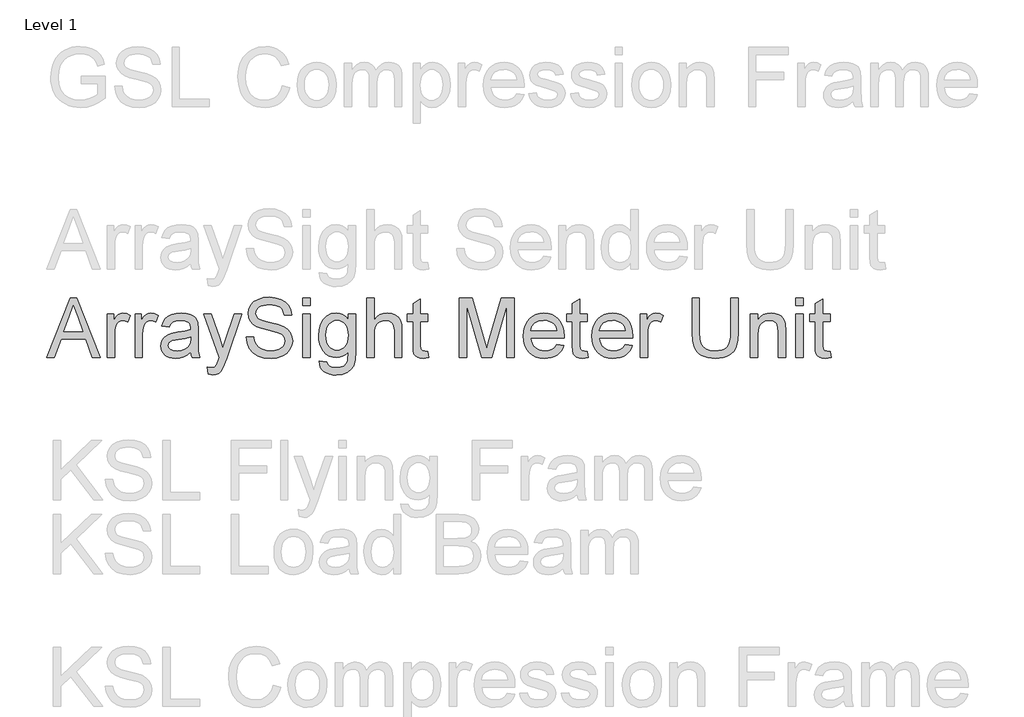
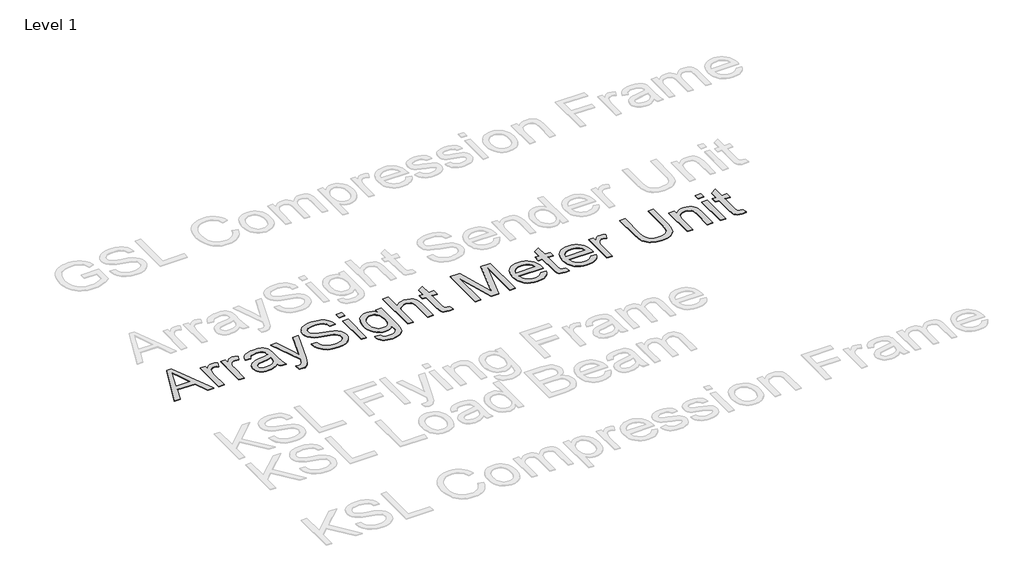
# One storey, part 11 of 52: 1 proxy.
"""IFC4 building model written with IfcOpenShell, lengths in millimetres."""

from ifc_helpers import new_model, si_unit, origin, origin_with_axes, place, context, project, spatial, polyline, outline, extrude, element, save

model = new_model("IFC4")

# Units and contexts
model_context = context("Model", 3, world=origin())
ifc_project = project(units=[si_unit("LENGTHUNIT", "METRE", prefix="MILLI")], contexts=[model_context])

# Site, building, storey
site = spatial("IfcSite", under=ifc_project)
building = spatial("IfcBuilding", under=site)
storey = spatial("IfcBuildingStorey", under=building, Name="Level 1", Elevation=0.0)

# Proxy
placement = place(None, origin())
element("IfcBuildingElementProxy", 1, Name="400mm Arial", ObjectType="400mm Arial", at=placement, inside=storey, context=model_context, shape_type="SweptSolid", body=[
    extrude(outline(polyline([(-18997.8660955, -54256.6859046), (-18837.4695456, -53854.860664), (-18794.6971323, -53854.860664), (-18634.3005824, -54256.6859046), (-18687.3736916, -54256.6859046), (-18733.3834665, -54131.1155169), (-18898.8813134, -54131.1155169), (-18944.7929864, -54256.6859046), (-18997.8660955, -54256.6859046)]), holes=[polyline([(-18880.4381627, -54080.8873618), (-18751.7285153, -54080.8873618), (-18787.9281036, -53982.0987834), (-18816.083339, -53905.088819), (-18841.0993147, -53973.4658192), (-18880.4381627, -54080.8873618)])]), origin_with_axes(), (0.0, 0.0, 1.0), 5.0),
    extrude(outline(polyline([(-18586.9173815, -54256.6859046), (-18586.9173815, -53961.5954935), (-18542.9677458, -53961.5954935), (-18542.9677458, -54005.2508236), (-18526.731887, -53979.9405423), (-18511.7713526, -53965.0290588), (-18496.7617672, -53957.7449953), (-18480.3787557, -53955.3169741), (-18455.36278, -53959.1919978), (-18429.9543969, -53970.8170688), (-18446.7298158, -54015.845825), (-18464.3881516, -54008.1203031), (-18482.0464874, -54005.5451292), (-18497.04381, -54008.0222013), (-18510.4469774, -54015.4534176), (-18521.2749708, -54027.2746924), (-18528.5467716, -54042.9219399), (-18534.6536127, -54070.9790734), (-18536.6892264, -54101.5868554), (-18536.6892264, -54256.6859046), (-18586.9173815, -54256.6859046)])), origin_with_axes(), (0.0, 0.0, 1.0), 5.0),
    extrude(outline(polyline([(-18398.5617999, -54256.6859046), (-18398.5617999, -53961.5954935), (-18354.6121642, -53961.5954935), (-18354.6121642, -54005.2508236), (-18338.3763055, -53979.9405423), (-18323.415771, -53965.0290588), (-18308.4061856, -53957.7449953), (-18292.0231741, -53955.3169741), (-18267.0071985, -53959.1919978), (-18241.5988153, -53970.8170688), (-18258.3742343, -54015.845825), (-18276.0325701, -54008.1203031), (-18293.6909058, -54005.5451292), (-18308.6882285, -54008.0222013), (-18322.0913959, -54015.4534176), (-18332.9193893, -54027.2746924), (-18340.19119, -54042.9219399), (-18346.2980311, -54070.9790734), (-18348.3336449, -54101.5868554), (-18348.3336449, -54256.6859046), (-18398.5617999, -54256.6859046)])), origin_with_axes(), (0.0, 0.0, 1.0), 5.0),
    extrude(outline(polyline([(-18021.8506369, -54219.0147883), (-18045.8488057, -54239.5916545), (-18070.558213, -54253.0561355), (-18096.5429446, -54260.4873518), (-18124.3670862, -54262.9644239), (-18146.7312458, -54261.4745019), (-18166.3424218, -54257.0047356), (-18183.2006143, -54249.5551252), (-18197.3058231, -54239.1256707), (-18208.4434505, -54226.3785595), (-18216.3988987, -54211.9759794), (-18221.1721675, -54195.9179303), (-18222.7632572, -54178.2044123), (-18220.3597615, -54157.3822913), (-18213.1492744, -54138.4731568), (-18202.0269754, -54122.286349), (-18187.888044, -54109.6312084), (-18171.2720406, -54100.0662765), (-18152.7185253, -54093.150095), (-18109.2593989, -54085.5962513), (-18057.9030724, -54077.6500002), (-18022.1449425, -54068.330323), (-18021.8506369, -54057.1467104), (-18025.3087276, -54034.7304341), (-18035.6829999, -54020.0642053), (-18058.8840911, -54009.1748982), (-18091.2086557, -54005.5451292), (-18121.1297246, -54007.9608876), (-18142.025422, -54015.2081629), (-18156.2747179, -54028.6113303), (-18166.2565827, -54049.4947649), (-18216.4847378, -54043.2162455), (-18207.7659345, -54015.7477232), (-18194.7551746, -53994.1653128), (-18176.2384475, -53977.6596739), (-18151.0017426, -53965.4214662), (-18120.1364432, -53957.8430971), (-18084.7339326, -53955.3169741), (-18050.7784244, -53957.5487915), (-18023.8617251, -53964.2442439), (-18003.5669017, -53974.3119478), (-17989.4770213, -53986.6605201), (-17980.1328186, -54001.9276229), (-17974.0750284, -54020.7509183), (-17971.6224818, -54064.700554), (-17971.6224818, -54127.1914423), (-17969.0718333, -54214.4530515), (-17959.065443, -54256.6859046), (-18009.2935981, -54256.6859046), (-18017.3379511, -54239.2237725), (-18021.8506369, -54219.0147883)]), holes=[polyline([(-18021.8506369, -54118.5584781), (-18055.5976786, -54126.9216621), (-18102.8827777, -54133.960471), (-18146.0966494, -54142.1029258), (-18157.3415757, -54147.6702067), (-18165.6679715, -54155.3466776), (-18170.8183194, -54164.5437275), (-18172.5351021, -54174.6727451), (-18168.7949685, -54189.6087541), (-18157.5745676, -54201.8469618), (-18139.1191542, -54210.0139421), (-18113.6739829, -54212.7362689), (-18086.6959699, -54209.7318992), (-18062.8572166, -54200.7187904), (-18043.5311491, -54187.4382503), (-18030.0911936, -54171.6315873), (-18024.1315052, -54155.3466776), (-18022.1449425, -54132.7832486), (-18021.8506369, -54118.5584781)])]), origin_with_axes(), (0.0, 0.0, 1.0), 5.0),
    extrude(outline(polyline([(-17902.5587686, -54369.6992535), (-17908.837288, -54321.3350338), (-17883.330803, -54325.7496178), (-17869.9153729, -54324.3639289), (-17859.4920497, -54320.2068624), (-17844.8748717, -54304.7558186), (-17831.1406106, -54267.7714153), (-17827.216536, -54255.606784), (-17933.9513655, -53961.5954935), (-17880.9763582, -53961.5954935), (-17824.3715819, -54125.4256087), (-17804.6531069, -54190.9576548), (-17784.934632, -54133.0775542), (-17726.7602258, -53961.5954935), (-17674.177626, -53961.5954935), (-17776.890279, -54263.7492389), (-17803.5739864, -54329.2812849), (-17817.2346712, -54350.2015077), (-17832.7102404, -54364.6960583), (-17850.6874072, -54373.1573442), (-17871.8528847, -54375.9777729), (-17902.5587686, -54369.6992535)])), origin_with_axes(), (0.0, 0.0, 1.0), 5.0),
    extrude(outline(polyline([(-17645.1394738, -54118.5584781), (-17594.9113187, -54118.5584781), (-17589.1478341, -54146.4316706), (-17578.7245109, -54168.8356841), (-17562.4641268, -54186.6166472), (-17539.1894592, -54200.6206885), (-17510.7399182, -54209.7073738), (-17478.9549139, -54212.7362689), (-17450.9713568, -54210.4431378), (-17426.4704159, -54203.5637445), (-17406.6170509, -54192.6744374), (-17392.5762214, -54178.3515651), (-17384.2253001, -54161.9072399), (-17381.4416597, -54144.6535743), (-17383.5263243, -54127.8413671), (-17389.7803182, -54113.3100283), (-17402.4845098, -54100.9124051), (-17423.9197674, -54090.5013446), (-17497.054708, -54071.3224299), (-17545.0633084, -54058.6305011), (-17575.781455, -54046.5517089), (-17600.7851679, -54029.6536626), (-17618.5048174, -54009.1748982), (-17629.0630306, -53985.5568741), (-17632.582435, -53959.2410487), (-17628.2291648, -53929.8227518), (-17615.1693539, -53902.3910177), (-17593.7463591, -53879.1408756), (-17564.3035367, -53862.2673548), (-17528.9623397, -53852.0034471), (-17489.8442209, -53848.5821446), (-17447.4642151, -53852.1628627), (-17410.38171, -53862.9050169), (-17379.9210808, -53880.5878782), (-17357.4067026, -53904.9907172), (-17343.1574067, -53934.592955), (-17337.492024, -53967.8740129), (-17387.720179, -53967.8740129), (-17396.9417544, -53937.903893), (-17405.3049384, -53926.04583), (-17416.16972, -53916.2724317), (-17446.2134163, -53903.1758327), (-17487.8821836, -53898.8102996), (-17530.5319696, -53903.1267817), (-17546.8352733, -53908.5223843), (-17559.7908509, -53916.076228), (-17576.7134227, -53935.1325153), (-17582.35428, -53957.7695207), (-17578.356629, -53977.0710628), (-17566.3636759, -53992.595683), (-17538.0122368, -54006.4770969), (-17484.3505164, -54020.6528165), (-17428.9720134, -54034.1172975), (-17395.4702264, -54045.8649959), (-17366.8367445, -54064.0874173), (-17346.8607521, -54086.57727), (-17335.1253165, -54113.0892991), (-17331.2135046, -54143.37825), (-17335.7139277, -54174.3416513), (-17349.2151969, -54203.4656426), (-17371.1654893, -54228.5306692), (-17401.0129818, -54247.3171764), (-17436.9060018, -54259.0526121), (-17476.9928765, -54262.9644239), (-17526.2032248, -54258.7460437), (-17566.7070324, -54246.0909031), (-17598.9702834, -54224.9499511), (-17623.4589616, -54195.2741368), (-17639.1797855, -54159.1235994), (-17645.1394738, -54118.5584781)])), origin_with_axes(), (0.0, 0.0, 1.0), 5.0),
    extrude(outline(polyline([(-17262.1497914, -54256.6859046), (-17262.1497914, -53961.5954935), (-17211.9216363, -53961.5954935), (-17211.9216363, -54256.6859046), (-17262.1497914, -54256.6859046)])), origin_with_axes(), (0.0, 0.0, 1.0), 5.0),
    extrude(outline(polyline([(-17262.1497914, -53905.088819), (-17262.1497914, -53854.860664), (-17211.9216363, -53854.860664), (-17211.9216363, -53905.088819), (-17262.1497914, -53905.088819)])), origin_with_axes(), (0.0, 0.0, 1.0), 5.0),
    extrude(outline(polyline([(-17149.1364424, -54281.7999821), (-17098.9082874, -54288.0785015), (-17093.365532, -54303.7747999), (-17082.6233777, -54314.5660051), (-17061.5069512, -54322.9537146), (-17033.8667506, -54325.7496178), (-17004.3871401, -54322.5858326), (-16982.4613732, -54313.0944772), (-16967.255584, -54297.888688), (-16957.9359068, -54277.5816019), (-16954.5023415, -54219.0147883), (-16971.2164468, -54235.4959016), (-16989.868064, -54247.2681255), (-17010.457193, -54254.3314598), (-17032.9838338, -54256.6859046), (-17060.5228669, -54253.9451837), (-17084.769356, -54245.7230211), (-17105.7233013, -54232.0194168), (-17123.3847028, -54212.8343707), (-17137.3979411, -54189.8172206), (-17147.4073971, -54164.6173039), (-17153.4130706, -54137.2346207), (-17155.4149618, -54107.669171), (-17151.821981, -54067.1163124), (-17141.0430386, -54029.8253409), (-17123.4582792, -53998.2242775), (-17099.4478476, -53974.7411435), (-17069.833347, -53960.1730164), (-17035.4363805, -53955.3169741), (-17011.9471151, -53958.0638263), (-16990.6283535, -53966.304383), (-16971.4800956, -53980.0386442), (-16954.5023415, -53999.2666098), (-16954.5023415, -53961.5954935), (-16904.2741865, -53961.5954935), (-16904.2741865, -54216.3660379), (-16907.7077517, -54275.1903689), (-16918.0084476, -54313.928343), (-16935.7526225, -54339.618769), (-16961.5166249, -54359.3004557), (-16994.7363691, -54371.8084436), (-17034.8477693, -54375.9777729), (-17059.4560091, -54374.5093106), (-17081.5810454, -54370.1039237), (-17101.2228783, -54362.7616122), (-17118.3815076, -54352.4823761), (-17132.2414618, -54339.2539527), (-17141.987269, -54323.0640792), (-17147.6189292, -54303.9127557), (-17149.1364424, -54281.7999821)]), holes=[polyline([(-17105.1868068, -54104.2356058), (-17099.8279924, -54150.3066943), (-17093.1294744, -54167.9435703), (-17083.7515492, -54181.9813341), (-17072.350273, -54192.6897658), (-17059.5817021, -54200.3386456), (-17045.4458364, -54204.9279735), (-17029.942676, -54206.4577495), (-17014.5927998, -54204.9371706), (-17000.5243791, -54200.3754338), (-16987.7374141, -54192.7725393), (-16976.2319047, -54182.1284869), (-16966.7252208, -54168.2286788), (-16959.9347323, -54150.8585173), (-16954.5023415, -54105.7071337), (-16960.0941479, -54062.1621682), (-16967.0839058, -54044.9606193), (-16976.8695668, -54030.8063595), (-16988.6233966, -54019.7545712), (-17001.5176605, -54011.8604368), (-17015.5523586, -54007.1239561), (-17030.7274909, -54005.5451292), (-17045.6481715, -54007.0994306), (-17059.4100238, -54011.7623349), (-17083.4572436, -54030.4139521), (-17092.9639275, -54044.353614), (-17099.754416, -54061.3037769), (-17105.1868068, -54104.2356058)])]), origin_with_axes(), (0.0, 0.0, 1.0), 5.0),
    extrude(outline(polyline([(-16828.9319538, -54256.6859046), (-16828.9319538, -53854.860664), (-16778.7037988, -53854.860664), (-16778.7037988, -54002.6020732), (-16760.2545167, -53981.9148424), (-16739.536629, -53967.1382489), (-16716.5501357, -53958.2722928), (-16691.2950367, -53955.3169741), (-16660.9570348, -53958.5420729), (-16634.8864641, -53968.2173694), (-16614.3586488, -53983.5825741), (-16600.6489131, -54003.8773975), (-16592.9233912, -54031.7628527), (-16590.3482172, -54069.8999529), (-16590.3482172, -54256.6859046), (-16640.5763723, -54256.6859046), (-16640.5763723, -54075.0993517), (-16644.5740233, -54043.6577039), (-16656.5669764, -54022.1243444), (-16675.8930438, -54009.689933), (-16701.8900382, -54005.5451292), (-16723.1168293, -54008.3410323), (-16743.0437707, -54016.7287418), (-16759.5494096, -54029.8989173), (-16770.512293, -54047.0422182), (-16776.6559223, -54069.8263765), (-16778.7037988, -54099.9191237), (-16778.7037988, -54256.6859046), (-16828.9319538, -54256.6859046)])), origin_with_axes(), (0.0, 0.0, 1.0), 5.0),
    extrude(outline(polyline([(-16414.5496745, -54214.796408), (-16408.2711551, -54258.1574325), (-16445.8441695, -54262.9644239), (-16469.9527029, -54260.8797593), (-16487.9298698, -54254.6257654), (-16500.6340613, -54244.9872571), (-16508.923669, -54232.7490494), (-16513.4854057, -54211.7307247), (-16515.0059846, -54175.7518656), (-16515.0059846, -54011.8236486), (-16552.6771009, -54011.8236486), (-16552.6771009, -53961.5954935), (-16515.0059846, -53961.5954935), (-16515.0059846, -53889.8830299), (-16464.7778296, -53860.3543684), (-16464.7778296, -53961.5954935), (-16414.5496745, -53961.5954935), (-16414.5496745, -54011.8236486), (-16464.7778296, -54011.8236486), (-16464.7778296, -54174.2803376), (-16462.1290792, -54200.1792301), (-16453.545166, -54209.3517545), (-16436.4263905, -54212.7362689), (-16414.5496745, -54214.796408)])), origin_with_axes(), (0.0, 0.0, 1.0), 5.0),
    extrude(outline(polyline([(-16201.0800154, -54256.6859046), (-16201.0800154, -53854.860664), (-16114.652272, -53854.860664), (-16032.4429088, -54138.0807493), (-16015.8636936, -54197.2361741), (-15997.9110522, -54133.175656), (-15917.0751151, -53854.860664), (-15830.6473717, -53854.860664), (-15830.6473717, -54256.6859046), (-15880.8755268, -54256.6859046), (-15880.8755268, -53905.088819), (-15981.8223463, -54256.6859046), (-16049.9050409, -54256.6859046), (-16150.8518603, -53905.088819), (-16150.8518603, -54256.6859046), (-16201.0800154, -54256.6859046)])), origin_with_axes(), (0.0, 0.0, 1.0), 5.0),
    extrude(outline(polyline([(-15542.4240912, -54168.7866332), (-15493.1769548, -54175.0651526), (-15500.7277328, -54194.7897589), (-15510.9211297, -54212.1721831), (-15523.7571457, -54227.2124254), (-15539.2357806, -54239.9104856), (-15557.197619, -54249.9965836), (-15577.4832454, -54257.2009394), (-15625.0258619, -54262.9644239), (-15656.1915983, -54260.4781548), (-15683.9605575, -54253.0193473), (-15708.3327397, -54240.5880016), (-15729.3081448, -54223.1841175), (-15746.1755343, -54201.2920731), (-15758.2236696, -54175.3962464), (-15765.4525508, -54145.4966372), (-15767.8621779, -54111.5932457), (-15765.4280254, -54076.5402229), (-15758.1255677, -54045.6442667), (-15745.9548051, -54018.905377), (-15728.9157373, -53996.3235538), (-15707.9955145, -53978.3831752), (-15684.1812867, -53965.568619), (-15657.4730539, -53957.8798853), (-15627.870816, -53955.3169741), (-15599.2220056, -53957.873754), (-15573.3139161, -53965.5440936), (-15550.1465475, -53978.3279929), (-15529.7198997, -53996.225452), (-15513.0456482, -54018.7582242), (-15501.1354687, -54045.4480629), (-15493.9893609, -54076.2949682), (-15491.607325, -54111.2989401), (-15491.9016306, -54124.8369975), (-15717.6340228, -54124.8369975), (-15714.7246894, -54144.8804349), (-15708.939745, -54162.4345374), (-15700.2791897, -54177.4993051), (-15688.7430235, -54190.074738), (-15674.9689084, -54199.9891577), (-15659.5945067, -54207.0708861), (-15624.0448432, -54212.7362689), (-15597.3120849, -54210.112044), (-15574.7977068, -54202.2393693), (-15556.5017089, -54188.6277354), (-15542.4240912, -54168.7866332)]), holes=[polyline([(-15717.6340228, -54074.6088424), (-15541.8354801, -54074.6088424), (-15548.6290342, -54048.0722878), (-15561.9463625, -54029.0895769), (-15575.6438354, -54018.788881), (-15591.2297693, -54011.4312411), (-15608.704164, -54007.0166572), (-15628.0670197, -54005.5451292), (-15661.924426, -54010.241756), (-15689.9202458, -54024.3316364), (-15709.3812034, -54046.2941915), (-15717.6340228, -54074.6088424)])]), origin_with_axes(), (0.0, 0.0, 1.0), 5.0),
    extrude(outline(polyline([(-15334.6443404, -54214.796408), (-15328.365821, -54258.1574325), (-15365.9388354, -54262.9644239), (-15390.0473688, -54260.8797593), (-15408.0245357, -54254.6257654), (-15420.7287272, -54244.9872571), (-15429.0183349, -54232.7490494), (-15433.5800716, -54211.7307247), (-15435.1006505, -54175.7518656), (-15435.1006505, -54011.8236486), (-15472.7717668, -54011.8236486), (-15472.7717668, -53961.5954935), (-15435.1006505, -53961.5954935), (-15435.1006505, -53889.8830299), (-15384.8724954, -53860.3543684), (-15384.8724954, -53961.5954935), (-15334.6443404, -53961.5954935), (-15334.6443404, -54011.8236486), (-15384.8724954, -54011.8236486), (-15384.8724954, -54174.2803376), (-15382.2237451, -54200.1792301), (-15373.6398319, -54209.3517545), (-15356.5210563, -54212.7362689), (-15334.6443404, -54214.796408)])), origin_with_axes(), (0.0, 0.0, 1.0), 5.0),
    extrude(outline(polyline([(-15077.8136568, -54168.7866332), (-15028.5665204, -54175.0651526), (-15036.1172983, -54194.7897589), (-15046.3106953, -54212.1721831), (-15059.1467112, -54227.2124254), (-15074.6253462, -54239.9104856), (-15092.5871846, -54249.9965836), (-15112.8728109, -54257.2009394), (-15160.4154275, -54262.9644239), (-15191.5811638, -54260.4781548), (-15219.3501231, -54253.0193473), (-15243.7223053, -54240.5880016), (-15264.6977104, -54223.1841175), (-15281.5650998, -54201.2920731), (-15293.6132352, -54175.3962464), (-15300.8421164, -54145.4966372), (-15303.2517434, -54111.5932457), (-15300.8175909, -54076.5402229), (-15293.5151333, -54045.6442667), (-15281.3443706, -54018.905377), (-15264.3053029, -53996.3235538), (-15243.3850801, -53978.3831752), (-15219.5708523, -53965.568619), (-15192.8626194, -53957.8798853), (-15163.2603815, -53955.3169741), (-15134.6115712, -53957.873754), (-15108.7034817, -53965.5440936), (-15085.536113, -53978.3279929), (-15065.1094652, -53996.225452), (-15048.4352138, -54018.7582242), (-15036.5250342, -54045.4480629), (-15029.3789265, -54076.2949682), (-15026.9968905, -54111.2989401), (-15027.2911961, -54124.8369975), (-15253.0235884, -54124.8369975), (-15250.1142549, -54144.8804349), (-15244.3293106, -54162.4345374), (-15235.6687552, -54177.4993051), (-15224.132589, -54190.074738), (-15210.358474, -54199.9891577), (-15194.9840723, -54207.0708861), (-15159.4344088, -54212.7362689), (-15132.7016505, -54210.112044), (-15110.1872724, -54202.2393693), (-15091.8912745, -54188.6277354), (-15077.8136568, -54168.7866332)]), holes=[polyline([(-15253.0235884, -54074.6088424), (-15077.2250456, -54074.6088424), (-15084.0185998, -54048.0722878), (-15097.335928, -54029.0895769), (-15111.033401, -54018.788881), (-15126.6193348, -54011.4312411), (-15144.0937296, -54007.0166572), (-15163.4565853, -54005.5451292), (-15197.3139916, -54010.241756), (-15225.3098114, -54024.3316364), (-15244.7707689, -54046.2941915), (-15253.0235884, -54074.6088424)])]), origin_with_axes(), (0.0, 0.0, 1.0), 5.0),
    extrude(outline(polyline([(-14976.7687355, -54256.6859046), (-14976.7687355, -53961.5954935), (-14932.8190998, -53961.5954935), (-14932.8190998, -54005.2508236), (-14916.583241, -53979.9405423), (-14901.6227066, -53965.0290588), (-14886.6131212, -53957.7449953), (-14870.2301097, -53955.3169741), (-14845.214134, -53959.1919978), (-14819.8057509, -53970.8170688), (-14836.5811698, -54015.845825), (-14854.2395056, -54008.1203031), (-14871.8978414, -54005.5451292), (-14886.895164, -54008.0222013), (-14900.2983314, -54015.4534176), (-14911.1263248, -54027.2746924), (-14918.3981256, -54042.9219399), (-14924.5049667, -54070.9790734), (-14926.5405804, -54101.5868554), (-14926.5405804, -54256.6859046), (-14976.7687355, -54256.6859046)])), origin_with_axes(), (0.0, 0.0, 1.0), 5.0),
    extrude(outline(polyline([(-14361.4738358, -53854.860664), (-14311.2456807, -53854.860664), (-14311.2456807, -54086.6753719), (-14314.6547205, -54140.9624916), (-14324.88184, -54182.766149), (-14333.0672144, -54199.7193776), (-14343.9871783, -54215.0171372), (-14374.0308746, -54240.6462496), (-14393.173001, -54250.4104509), (-14415.0865052, -54257.3848803), (-14467.2276467, -54262.9644239), (-14518.2283539, -54258.1083816), (-14559.0019417, -54243.5402546), (-14575.5566315, -54232.7398524), (-14589.5606728, -54219.762815), (-14601.0140656, -54204.6091425), (-14609.9168099, -54187.2788348), (-14621.3579399, -54143.7093438), (-14625.1716499, -54086.6753719), (-14625.1716499, -53854.860664), (-14574.9434949, -53854.860664), (-14574.9434949, -54084.9095383), (-14572.4664228, -54130.0486591), (-14565.0352065, -54161.4780442), (-14551.5707254, -54183.2443956), (-14530.9938592, -54199.3944152), (-14504.162999, -54209.4008054), (-14471.9365362, -54212.7362689), (-14444.2534161, -54211.0869313), (-14420.8499898, -54206.1389184), (-14401.7262574, -54197.8922304), (-14386.8822189, -54186.3468671), (-14375.7660513, -54170.1110084), (-14367.8259316, -54147.792834), (-14363.0618597, -54119.392344), (-14361.4738358, -54084.9095383), (-14361.4738358, -53854.860664)])), origin_with_axes(), (0.0, 0.0, 1.0), 5.0),
    extrude(outline(polyline([(-14229.6249287, -54256.6859046), (-14229.6249287, -53961.5954935), (-14179.3967736, -53961.5954935), (-14179.3967736, -54002.798277), (-14161.9469043, -53982.025207), (-14140.9898934, -53967.1872998), (-14116.5257407, -53958.2845555), (-14088.5544463, -53955.3169741), (-14063.795988, -53957.7082071), (-14041.1221944, -53964.881906), (-14022.2130598, -53975.9428913), (-14008.7485788, -53989.9959835), (-13999.6128426, -54007.0043944), (-13993.6899425, -54026.9313358), (-13991.0411921, -54075.4917592), (-13991.0411921, -54256.6859046), (-14041.2693472, -54256.6859046), (-14041.2693472, -54082.2607879), (-14042.7163497, -54056.2883191), (-14047.0573572, -54037.8206429), (-14055.064922, -54024.5891538), (-14067.5115962, -54014.3252461), (-14083.465412, -54007.7401584), (-14101.9944019, -54005.5451292), (-14131.4126987, -54010.4747479), (-14156.4899881, -54025.2636041), (-14166.5117068, -54037.3362649), (-14173.6700773, -54053.8357724), (-14177.9650995, -54074.7621266), (-14179.3967736, -54100.1153274), (-14179.3967736, -54256.6859046), (-14229.6249287, -54256.6859046)])), origin_with_axes(), (0.0, 0.0, 1.0), 5.0),
    extrude(outline(polyline([(-13921.9774789, -53905.088819), (-13921.9774789, -53854.860664), (-13871.7493238, -53854.860664), (-13871.7493238, -53905.088819), (-13921.9774789, -53905.088819)])), origin_with_axes(), (0.0, 0.0, 1.0), 5.0),
    extrude(outline(polyline([(-13921.9774789, -54256.6859046), (-13921.9774789, -53961.5954935), (-13871.7493238, -53961.5954935), (-13871.7493238, -54256.6859046), (-13921.9774789, -54256.6859046)])), origin_with_axes(), (0.0, 0.0, 1.0), 5.0),
    extrude(outline(polyline([(-13689.6722617, -54214.796408), (-13683.3937423, -54258.1574325), (-13720.9667567, -54262.9644239), (-13745.0752901, -54260.8797593), (-13763.052457, -54254.6257654), (-13775.7566485, -54244.9872571), (-13784.0462562, -54232.7490494), (-13788.6079929, -54211.7307247), (-13790.1285718, -54175.7518656), (-13790.1285718, -54011.8236486), (-13827.7996881, -54011.8236486), (-13827.7996881, -53961.5954935), (-13790.1285718, -53961.5954935), (-13790.1285718, -53889.8830299), (-13739.9004167, -53860.3543684), (-13739.9004167, -53961.5954935), (-13689.6722617, -53961.5954935), (-13689.6722617, -54011.8236486), (-13739.9004167, -54011.8236486), (-13739.9004167, -54174.2803376), (-13737.2516664, -54200.1792301), (-13728.6677532, -54209.3517545), (-13711.5489776, -54212.7362689), (-13689.6722617, -54214.796408)])), origin_with_axes(), (0.0, 0.0, 1.0), 5.0),
])

save(model, "model.ifc")
